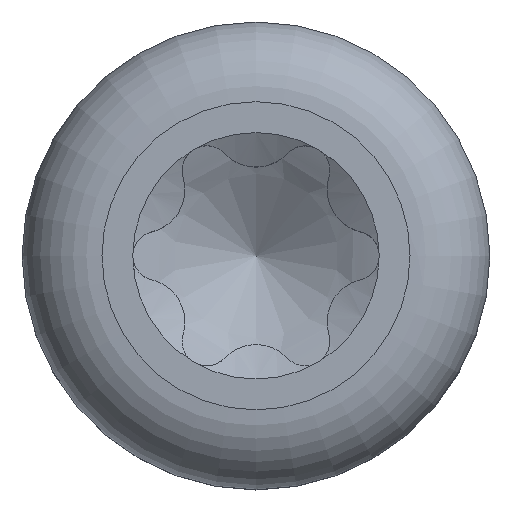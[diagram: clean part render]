
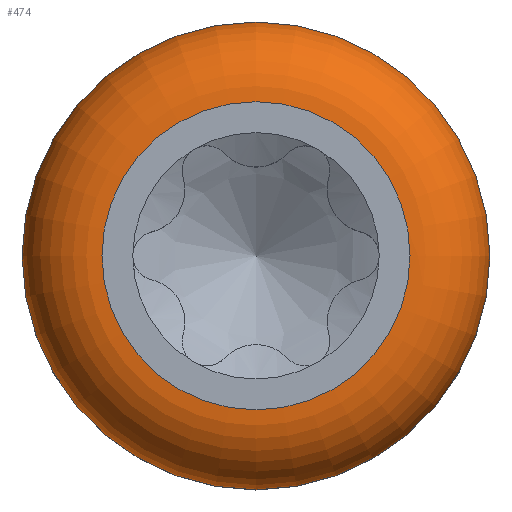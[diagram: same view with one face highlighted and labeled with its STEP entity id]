
A CAD part, top view. The second image highlights one B-rep face of the part: STEP entity #474.
In plain terms, the highlighted toroidal (fillet/blend) face has major radius 2.47 mm and minor radius 1.28 mm.
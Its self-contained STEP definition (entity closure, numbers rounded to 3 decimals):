
#434=TOROIDAL_SURFACE('',#2442,2.47,1.28);
#445=FACE_BOUND('',#802,.T.);
#446=FACE_BOUND('',#803,.T.);
#474=ADVANCED_FACE('',(#445,#446),#434,.T.);
#802=EDGE_LOOP('',(#1057));
#803=EDGE_LOOP('',(#1058));
#967=CIRCLE('',#2439,3.75);
#968=CIRCLE('',#2441,2.47);
#1057=ORIENTED_EDGE('',*,*,#1952,.F.);
#1058=ORIENTED_EDGE('',*,*,#1951,.T.);
#1745=VERTEX_POINT('',#5720);
#1746=VERTEX_POINT('',#5723);
#1951=EDGE_CURVE('',#1745,#1745,#967,.T.);
#1952=EDGE_CURVE('',#1746,#1746,#968,.T.);
#2439=AXIS2_PLACEMENT_3D('',#5719,#2507,#2508);
#2441=AXIS2_PLACEMENT_3D('',#5722,#2511,#2512);
#2442=AXIS2_PLACEMENT_3D('',#5724,#2513,#2514);
#2507=DIRECTION('',(0.,0.,1.));
#2508=DIRECTION('',(1.,0.,0.));
#2511=DIRECTION('',(0.,0.,1.));
#2512=DIRECTION('',(1.,0.,0.));
#2513=DIRECTION('',(0.,0.,1.));
#2514=DIRECTION('',(1.,0.,0.));
#5719=CARTESIAN_POINT('',(0.,0.,1.92));
#5720=CARTESIAN_POINT('',(3.75,0.,1.92));
#5722=CARTESIAN_POINT('',(0.,0.,3.2));
#5723=CARTESIAN_POINT('',(2.47,0.,3.2));
#5724=CARTESIAN_POINT('',(0.,0.,1.92));
